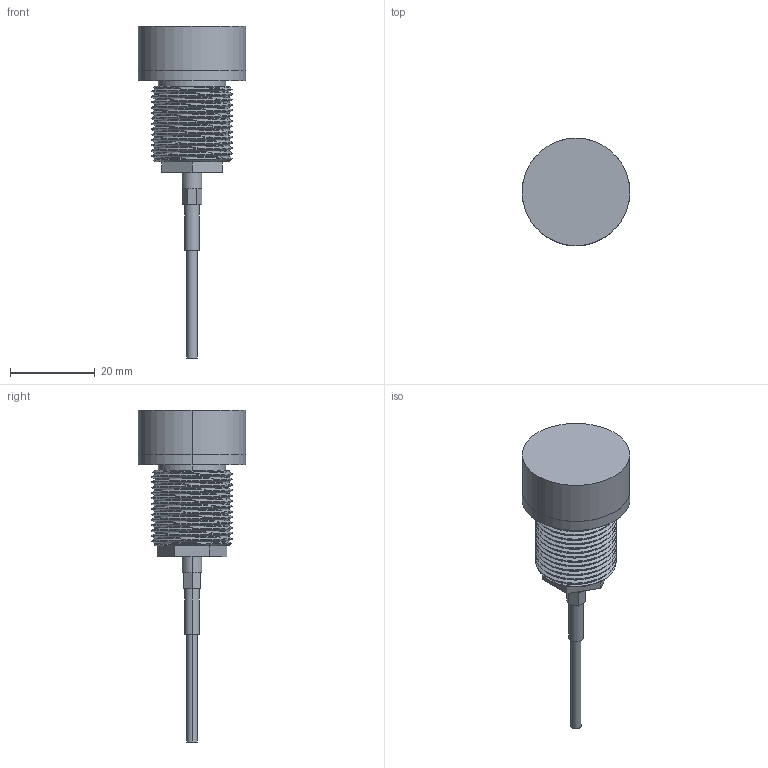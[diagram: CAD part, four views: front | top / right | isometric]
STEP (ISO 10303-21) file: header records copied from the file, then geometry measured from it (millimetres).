
FILE_DESCRIPTION (( 'STEP AP203' ), '1' );
FILE_NAME ('26U.STEP', '2010-03-05T18:59:34', ( 'tom edwards' ), ( 'Tom J. Edwards' ), 'SwSTEP 2.0', 'SolidWorks 2008', '' );
FILE_SCHEMA (( 'CONFIG_CONTROL_DESIGN' ));
Length unit declared in the file: inch
Products named in the file (1): 26U
Bounding box: 25.4 x 25.4 x 78.23 mm (x, y, z)
Volume: 12248 mm3; surface area: 4390.1 mm2
Topology: 1 solids, 1 shells, 75 faces, 183 edges, 117 vertices
Faces by surface type: cylinder 39, plane 27, cone 6, bspline 3
Entity records: 6977 total; most frequent: CARTESIAN_POINT 5305, ORIENTED_EDGE 366, DIRECTION 296, EDGE_CURVE 183, VERTEX_POINT 117, AXIS2_PLACEMENT_3D 108, EDGE_LOOP 82, LINE 80
